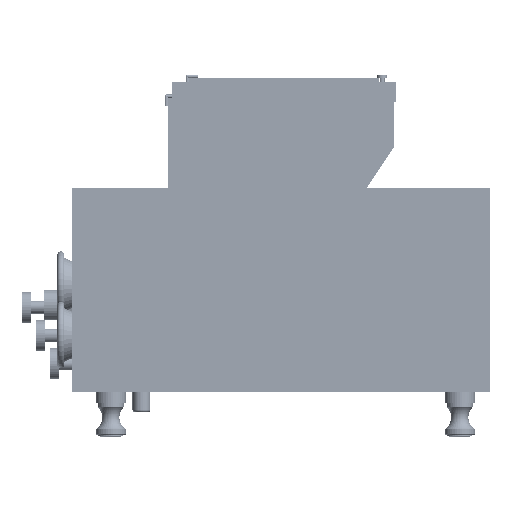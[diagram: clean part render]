
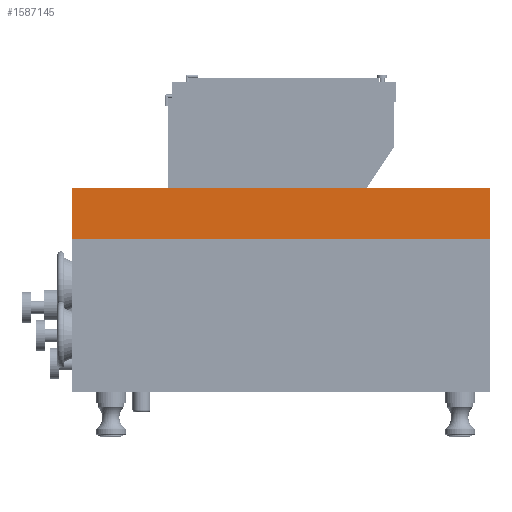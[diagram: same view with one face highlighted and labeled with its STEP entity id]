
A CAD part, left-side view. The second image highlights one B-rep face of the part: STEP entity #1587145.
In plain terms, the highlighted planar face has unit normal (-1, 0, 0).
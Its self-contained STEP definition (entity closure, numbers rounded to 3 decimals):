
#1586643 = PLANE('',#1586644);
#1586644 = AXIS2_PLACEMENT_3D('',#1586645,#1586646,#1586647);
#1586645 = CARTESIAN_POINT('',(382.,0.,75.99));
#1586646 = DIRECTION('',(-0.,1.,-0.));
#1586647 = DIRECTION('',(0.,0.,-1.));
#1586671 = PLANE('',#1586672);
#1586672 = AXIS2_PLACEMENT_3D('',#1586673,#1586674,#1586675);
#1586673 = CARTESIAN_POINT('',(382.,0.,75.99));
#1586674 = DIRECTION('',(-0.,-0.,1.));
#1586675 = DIRECTION('',(1.,0.,0.));
#1586699 = PLANE('',#1586700);
#1586700 = AXIS2_PLACEMENT_3D('',#1586701,#1586702,#1586703);
#1586701 = CARTESIAN_POINT('',(382.,207.,75.99));
#1586702 = DIRECTION('',(-0.,1.,-0.));
#1586703 = DIRECTION('',(0.,0.,-1.));
#1586725 = PLANE('',#1586726);
#1586726 = AXIS2_PLACEMENT_3D('',#1586727,#1586728,#1586729);
#1586727 = CARTESIAN_POINT('',(382.,0.,100.99));
#1586728 = DIRECTION('',(-0.,-0.,1.));
#1586729 = DIRECTION('',(1.,0.,0.));
#1586741 = VERTEX_POINT('',#1586742);
#1586742 = CARTESIAN_POINT('',(0.,0.,75.99));
#1586765 = VERTEX_POINT('',#1586766);
#1586766 = CARTESIAN_POINT('',(0.,0.,100.99));
#1586787 = EDGE_CURVE('',#1586741,#1586765,#1586788,.T.);
#1586788 = SURFACE_CURVE('',#1586789,(#1586793,#1586800),.PCURVE_S1.);
#1586789 = LINE('',#1586790,#1586791);
#1586790 = CARTESIAN_POINT('',(0.,0.,75.99));
#1586791 = VECTOR('',#1586792,1.);
#1586792 = DIRECTION('',(-0.,-0.,1.));
#1586793 = PCURVE('',#1586643,#1586794);
#1586794 = DEFINITIONAL_REPRESENTATION('',(#1586795),#1586799);
#1586795 = LINE('',#1586796,#1586797);
#1586796 = CARTESIAN_POINT('',(-0.,382.));
#1586797 = VECTOR('',#1586798,1.);
#1586798 = DIRECTION('',(-1.,0.));
#1586799 = ( GEOMETRIC_REPRESENTATION_CONTEXT(2) 
PARAMETRIC_REPRESENTATION_CONTEXT() REPRESENTATION_CONTEXT('2D SPACE',''
  ) );
#1586800 = PCURVE('',#1586801,#1586806);
#1586801 = PLANE('',#1586802);
#1586802 = AXIS2_PLACEMENT_3D('',#1586803,#1586804,#1586805);
#1586803 = CARTESIAN_POINT('',(0.,0.,75.99));
#1586804 = DIRECTION('',(-1.,-0.,-0.));
#1586805 = DIRECTION('',(0.,0.,-1.));
#1586806 = DEFINITIONAL_REPRESENTATION('',(#1586807),#1586811);
#1586807 = LINE('',#1586808,#1586809);
#1586808 = CARTESIAN_POINT('',(-0.,-0.));
#1586809 = VECTOR('',#1586810,1.);
#1586810 = DIRECTION('',(-1.,-0.));
#1586811 = ( GEOMETRIC_REPRESENTATION_CONTEXT(2) 
PARAMETRIC_REPRESENTATION_CONTEXT() REPRESENTATION_CONTEXT('2D SPACE',''
  ) );
#1586818 = EDGE_CURVE('',#1586765,#1586819,#1586821,.T.);
#1586819 = VERTEX_POINT('',#1586820);
#1586820 = CARTESIAN_POINT('',(0.,207.,100.99));
#1586821 = SURFACE_CURVE('',#1586822,(#1586826,#1586833),.PCURVE_S1.);
#1586822 = LINE('',#1586823,#1586824);
#1586823 = CARTESIAN_POINT('',(0.,0.,100.99));
#1586824 = VECTOR('',#1586825,1.);
#1586825 = DIRECTION('',(-0.,1.,-0.));
#1586826 = PCURVE('',#1586725,#1586827);
#1586827 = DEFINITIONAL_REPRESENTATION('',(#1586828),#1586832);
#1586828 = LINE('',#1586829,#1586830);
#1586829 = CARTESIAN_POINT('',(-382.,0.));
#1586830 = VECTOR('',#1586831,1.);
#1586831 = DIRECTION('',(-0.,1.));
#1586832 = ( GEOMETRIC_REPRESENTATION_CONTEXT(2) 
PARAMETRIC_REPRESENTATION_CONTEXT() REPRESENTATION_CONTEXT('2D SPACE',''
  ) );
#1586833 = PCURVE('',#1586801,#1586834);
#1586834 = DEFINITIONAL_REPRESENTATION('',(#1586835),#1586839);
#1586835 = LINE('',#1586836,#1586837);
#1586836 = CARTESIAN_POINT('',(-25.,-0.));
#1586837 = VECTOR('',#1586838,1.);
#1586838 = DIRECTION('',(-0.,-1.));
#1586839 = ( GEOMETRIC_REPRESENTATION_CONTEXT(2) 
PARAMETRIC_REPRESENTATION_CONTEXT() REPRESENTATION_CONTEXT('2D SPACE',''
  ) );
#1586980 = VERTEX_POINT('',#1586981);
#1586981 = CARTESIAN_POINT('',(0.,207.,75.99));
#1587004 = EDGE_CURVE('',#1586980,#1586819,#1587005,.T.);
#1587005 = SURFACE_CURVE('',#1587006,(#1587010,#1587017),.PCURVE_S1.);
#1587006 = LINE('',#1587007,#1587008);
#1587007 = CARTESIAN_POINT('',(0.,207.,75.99));
#1587008 = VECTOR('',#1587009,1.);
#1587009 = DIRECTION('',(-0.,-0.,1.));
#1587010 = PCURVE('',#1586699,#1587011);
#1587011 = DEFINITIONAL_REPRESENTATION('',(#1587012),#1587016);
#1587012 = LINE('',#1587013,#1587014);
#1587013 = CARTESIAN_POINT('',(-0.,382.));
#1587014 = VECTOR('',#1587015,1.);
#1587015 = DIRECTION('',(-1.,0.));
#1587016 = ( GEOMETRIC_REPRESENTATION_CONTEXT(2) 
PARAMETRIC_REPRESENTATION_CONTEXT() REPRESENTATION_CONTEXT('2D SPACE',''
  ) );
#1587017 = PCURVE('',#1586801,#1587018);
#1587018 = DEFINITIONAL_REPRESENTATION('',(#1587019),#1587023);
#1587019 = LINE('',#1587020,#1587021);
#1587020 = CARTESIAN_POINT('',(-0.,-207.));
#1587021 = VECTOR('',#1587022,1.);
#1587022 = DIRECTION('',(-1.,-0.));
#1587023 = ( GEOMETRIC_REPRESENTATION_CONTEXT(2) 
PARAMETRIC_REPRESENTATION_CONTEXT() REPRESENTATION_CONTEXT('2D SPACE',''
  ) );
#1587030 = EDGE_CURVE('',#1586741,#1586980,#1587031,.T.);
#1587031 = SURFACE_CURVE('',#1587032,(#1587036,#1587043),.PCURVE_S1.);
#1587032 = LINE('',#1587033,#1587034);
#1587033 = CARTESIAN_POINT('',(0.,0.,75.99));
#1587034 = VECTOR('',#1587035,1.);
#1587035 = DIRECTION('',(-0.,1.,-0.));
#1587036 = PCURVE('',#1586671,#1587037);
#1587037 = DEFINITIONAL_REPRESENTATION('',(#1587038),#1587042);
#1587038 = LINE('',#1587039,#1587040);
#1587039 = CARTESIAN_POINT('',(-382.,0.));
#1587040 = VECTOR('',#1587041,1.);
#1587041 = DIRECTION('',(-0.,1.));
#1587042 = ( GEOMETRIC_REPRESENTATION_CONTEXT(2) 
PARAMETRIC_REPRESENTATION_CONTEXT() REPRESENTATION_CONTEXT('2D SPACE',''
  ) );
#1587043 = PCURVE('',#1586801,#1587044);
#1587044 = DEFINITIONAL_REPRESENTATION('',(#1587045),#1587049);
#1587045 = LINE('',#1587046,#1587047);
#1587046 = CARTESIAN_POINT('',(-0.,-0.));
#1587047 = VECTOR('',#1587048,1.);
#1587048 = DIRECTION('',(-0.,-1.));
#1587049 = ( GEOMETRIC_REPRESENTATION_CONTEXT(2) 
PARAMETRIC_REPRESENTATION_CONTEXT() REPRESENTATION_CONTEXT('2D SPACE',''
  ) );
#1587145 = ADVANCED_FACE('',(#1587146),#1586801,.T.);
#1587146 = FACE_BOUND('',#1587147,.F.);
#1587147 = EDGE_LOOP('',(#1587148,#1587149,#1587150,#1587151));
#1587148 = ORIENTED_EDGE('',*,*,#1586787,.F.);
#1587149 = ORIENTED_EDGE('',*,*,#1587030,.T.);
#1587150 = ORIENTED_EDGE('',*,*,#1587004,.T.);
#1587151 = ORIENTED_EDGE('',*,*,#1586818,.F.);
